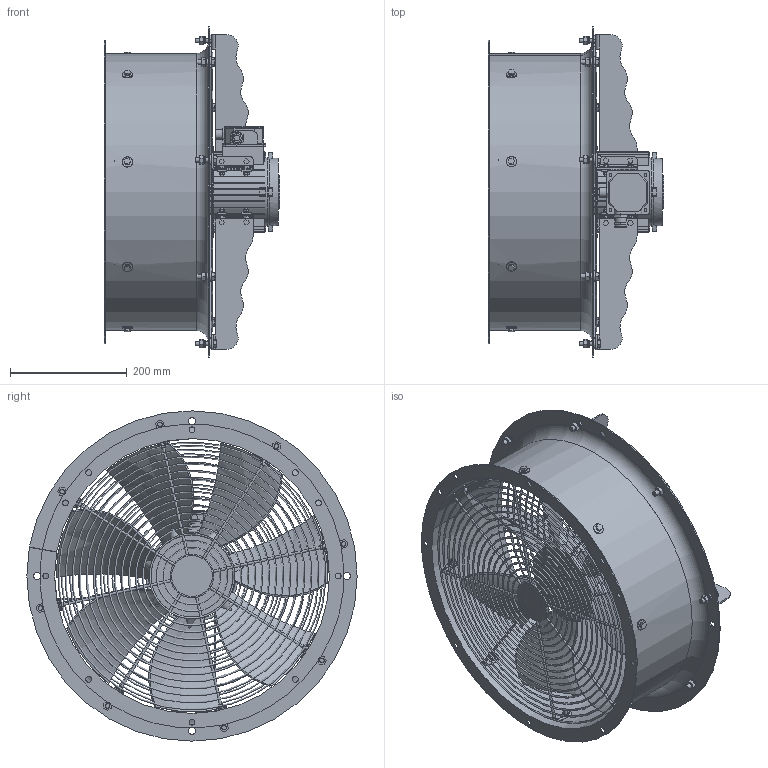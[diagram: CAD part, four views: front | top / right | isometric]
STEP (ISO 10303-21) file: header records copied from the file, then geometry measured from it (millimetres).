
FILE_DESCRIPTION (( 'STEP AP203' ), '1' );
FILE_NAME ('20.16996-1 VAAZ C 470 M71 B30.STEP', '2020-12-08T09:28:35', ( '' ), ( '' ), 'SwSTEP 2.0', 'SolidWorks 2020', '' );
FILE_SCHEMA (( 'CONFIG_CONTROL_DESIGN' ));
Length unit declared in the file: millimetre
Products named in the file (11): Vijèani spoj M8x30; 141422 Zašt rešetka usisna VAAZ C 470 M71 inox A2; 124825 Zašt rešetka ispušna VAAZ C 470 inox A2_inox; Vijèani spoj M5x14; Impeler pojednostavljeno; 147057 rev.3 Ku詈嗾e VAAZ C 470 standardno ; Vijèani spoj M6x16; 1414194 rev6 Nosaè VAAZ C 470 M71_¬.0361; 20.16996-1 VAAZ C 470 M71 B30; 5AZ 71 B30 BVK SS; Vijèani spoj M8x25
Assembly tree (41 placements, depth 2):
  20.16996-1 VAAZ C 470 M71 B30
    147057 rev.3 Ku詈嗾e VAAZ C 470 standardno 
    5AZ 71 B30 BVK SS
    141422 Zašt rešetka usisna VAAZ C 470 M71 inox A2
    1414194 rev6 Nosaè VAAZ C 470 M71_¬.0361  x4
    124825 Zašt rešetka ispušna VAAZ C 470 inox A2_inox
    Vijèani spoj M8x30  x4
    Vijèani spoj M8x25  x4
    Vijèani spoj M6x16  x8
    Vijèani spoj M5x14  x16
    Impeler pojednostavljeno
Bounding box: 301 x 565 x 565 mm (x, y, z)
Volume: 2890024.5 mm3; surface area: 1806659.7 mm2
Topology: 150 solids, 150 shells, 1951 faces, 4617 edges, 3017 vertices
Faces by surface type: plane 1255, cylinder 558, torus 58, bspline 44, cone 36
Full cylindrical faces by diameter (mm): 3.5 x1, 4 x16, 4.5 x4, 5 x48, 5.3 x1, 6 x60, 7 x8, 8 x48, 9 x8, 10 x11, 10.5 x1, 12 x29, 12.058 x8, 13.4 x1, 14 x1, 16 x1, 17 x1, 18 x10, 18.5 x1, 20 x3, 40 x1, 49.643 x2, 61.28 x2, 70 x1, 90 x1, 104.48 x2, 108.125 x1, 117 x3, 140 x1
Entity records: 37829 total; most frequent: CARTESIAN_POINT 11039, DIRECTION 5107, ORIENTED_EDGE 4782, EDGE_CURVE 2391, AXIS2_PLACEMENT_3D 1862, VERTEX_POINT 1668, EDGE_LOOP 1473, LINE 1383
